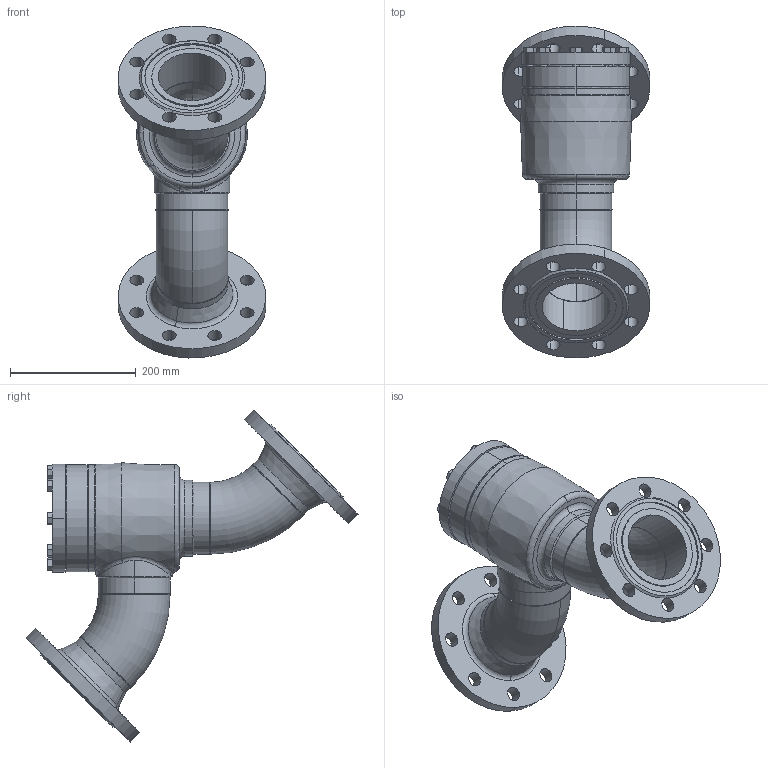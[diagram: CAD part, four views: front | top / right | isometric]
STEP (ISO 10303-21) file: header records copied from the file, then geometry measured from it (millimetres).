
FILE_DESCRIPTION (( 'STEP AP214' ), '1' );
FILE_NAME ('RV28320D19-DN100_DIN-FL-N_PS40.STEP', '2007-01-08T07:36:34', ( 'Herr Grams' ), ( 'AWP GmbH' ), 'SwSTEP 2.0', 'SolidWorks 2002296', '' );
FILE_SCHEMA (( 'AUTOMOTIVE_DESIGN' ));
Length unit declared in the file: millimetre
Products named in the file (16): RV28320D19-DN100_DIN-FL-N_PS40; Gehäuse-kpl16320-DN100_DIN_PS40_Standard; bead-DN100-7_Standard; bead-DN100-6_Standard; Flansch-DIN-Nut_PS40_DIN-Flansch-DN100_PS40-Nut; Gehäuse-kpl16300-DN100_R1_Standard; Gehäuse-kpl16400-DN100_R1_Standard; bead-DN100-1_Standard; Kopfstück16300-DN100_Standard; Gehäuse16400-DN100_Standard; Rohrbogen 45°_Rohrbogen-DN100-45°; bead-DN100-2_Standard; bead-DN100-3_Standard; RV28300E19_Deck+Schr-DN100_Standard; Deckel28300E19-DN100_Standard; Sechskantschraube-DIN933_M12x 35
Assembly tree (24 placements, depth 5):
  RV28320D19-DN100_DIN-FL-N_PS40
    RV28300E19_Deck+Schr-DN100_Standard
      Sechskantschraube-DIN933_M12x 35  x8
      Deckel28300E19-DN100_Standard
    Gehäuse-kpl16320-DN100_DIN_PS40_Standard
      Flansch-DIN-Nut_PS40_DIN-Flansch-DN100_PS40-Nut  x2
      bead-DN100-7_Standard
      bead-DN100-6_Standard
      Gehäuse-kpl16300-DN100_R1_Standard
        Rohrbogen 45°_Rohrbogen-DN100-45°  x2
        Gehäuse-kpl16400-DN100_R1_Standard
          bead-DN100-1_Standard
          Gehäuse16400-DN100_Standard
          Kopfstück16300-DN100_Standard
        bead-DN100-2_Standard
        bead-DN100-3_Standard
Bounding box: 234.78 x 528.11 x 528.11 mm (x, y, z)
Volume: 4578484.5 mm3; surface area: 839589.9 mm2
Topology: 20 solids, 20 shells, 405 faces, 910 edges, 551 vertices
Faces by surface type: cone 132, cylinder 117, plane 112, bspline 26, torus 18
Entity records: 19453 total; most frequent: CARTESIAN_POINT 14431, DIRECTION 927, ORIENTED_EDGE 860, EDGE_CURVE 430, AXIS2_PLACEMENT_3D 415, VERTEX_POINT 269, EDGE_LOOP 241, CIRCLE 224
